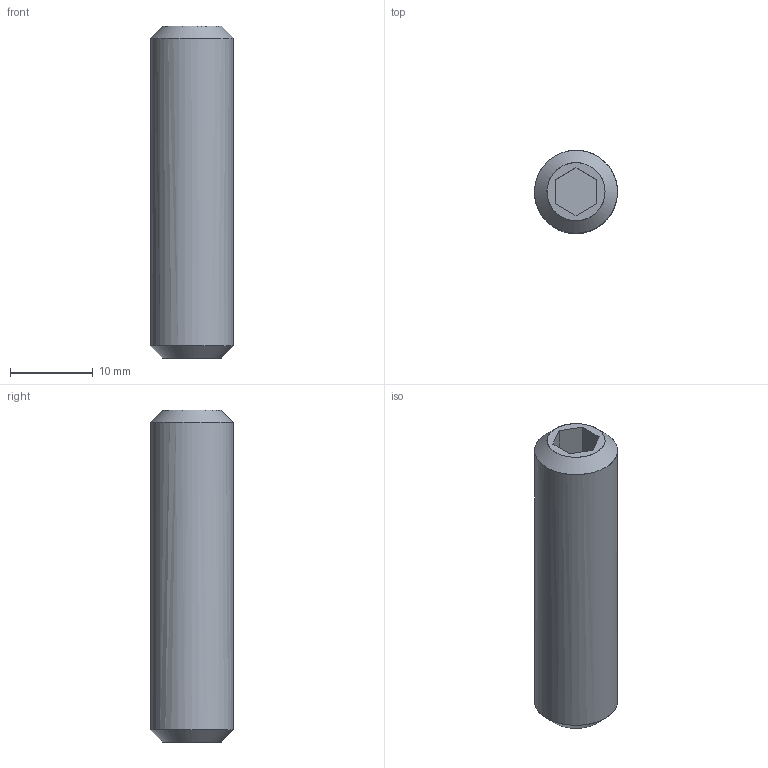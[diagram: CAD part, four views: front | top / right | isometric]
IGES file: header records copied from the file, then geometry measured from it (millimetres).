
Global section: file name: E:\UnigraphicsGraphicData\MISUMI_MOLD-PARTS\NX\3d_ai10_00911_r00.igs; native system: NX V5.0; preprocessor: UGS NX IGES V5.0; author: MISUMI; date: 20101115.182440; units: millimetre
Bounding box: 10 x 10 x 40 mm (x, y, z)
Surface area: 1528.6 mm2 (no closed solid volume)
Topology: 0 solids, 0 shells, 19 faces, 101 edges, 96 vertices
Faces by surface type: bspline 19
